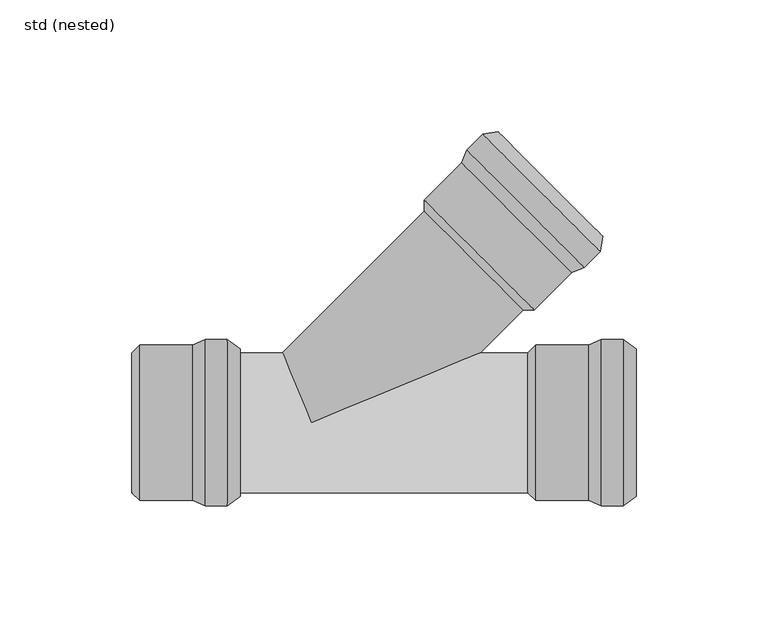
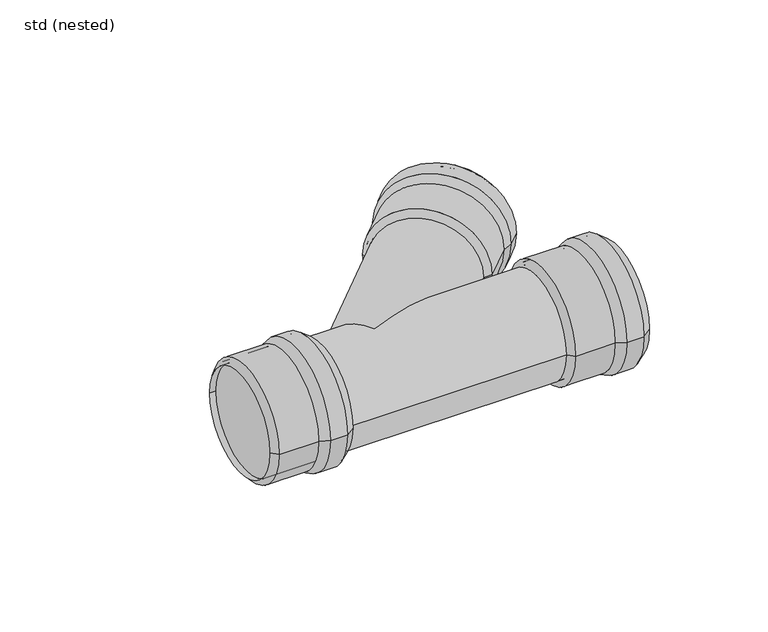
"""IFC4 building model written with IfcOpenShell, lengths in millimetres: pipe fitting geometry, ZZZ_do not use_PIF_ST_UN_GM-X single branch_ACO : std (nested)."""

from ifc_helpers import new_model, si_unit, frame, origin, place, context, project, spatial, polyline, circle_curve, ellipse_curve, source, transform, mapped, element, save
from ifc_brep_helpers import plane_surface, cylinder_surface, revolved_surface, advanced_brep


def std_nested_51db5023(model_context):
    return source(origin(), model_context, "Body", "AdvancedBrep", [
        advanced_brep(
        [(-40.2, 31.5, 0.0), (-40.2, -31.5, 0.0), (-31.8, -31.5, 0.0), (-31.8, 31.5, 0.0), (-45.0, 29.5, 0.0), (-45.0, -29.5, 0.0), (-27.0, -28.0, 0.0), (-27.0, 28.0, 0.0), (-65.0, 29.5, 0.0), (-65.0, -29.5, 0.0), (-68.0, 26.5, 0.0), (-68.0, -26.5, 0.0), (-65.0, 26.5, 0.0), (-65.0, -26.5, 0.0), (-44.7, 28.0, 0.0), (-44.7, -28.0, 0.0), (-65.0, -28.0, 0.0), (-65.0, 28.0, 0.0), (-39.9, 30.0, 0.0), (-39.9, -30.0, 0.0), (-32.2888023, 30.0, 0.0), (-32.2888023, -30.0, 0.0), (-27.8837582, 26.7879887, 0.0), (-27.8837582, -26.7879887, 0.0)],
        [
            (0, 1, circle_curve(frame((-40.2, 0.0, 0.0), z_axis=(1.0, 0.0, 0.0), x_axis=(0.0, -1.0, 0.0)), 31.5)),
            (1, 2),
            (2, 3, circle_curve(frame((-31.8, 0.0, 0.0), z_axis=(-1.0, 0.0, 0.0), x_axis=(0.0, -1.0, 0.0)), 31.5)),
            (3, 0),
            (1, 0, circle_curve(frame((-40.2, 0.0, 0.0), z_axis=(1.0, 0.0, 0.0), x_axis=(0.0, -1.0, 0.0)), 31.5)),
            (3, 2, circle_curve(frame((-31.8, 0.0, 0.0), z_axis=(-1.0, 0.0, 0.0), x_axis=(0.0, -1.0, 0.0)), 31.5)),
            (4, 5, circle_curve(frame((-45.0, 0.0, 0.0), z_axis=(1.0, 0.0, 0.0), x_axis=(0.0, -1.0, 0.0)), 29.5)),
            (5, 1),
            (0, 4),
            (5, 4, circle_curve(frame((-45.0, 0.0, 0.0), z_axis=(1.0, 0.0, 0.0), x_axis=(0.0, -1.0, 0.0)), 29.5)),
            (2, 6),
            (6, 7, circle_curve(frame((-27.0, 0.0, 0.0), z_axis=(-1.0, 0.0, 0.0), x_axis=(0.0, -1.0, 0.0)), 28.0)),
            (7, 3),
            (7, 6, circle_curve(frame((-27.0, 0.0, 0.0), z_axis=(-1.0, 0.0, 0.0), x_axis=(0.0, -1.0, 0.0)), 28.0)),
            (8, 9, circle_curve(frame((-65.0, 0.0, 0.0), z_axis=(1.0, 0.0, 0.0), x_axis=(0.0, -1.0, 0.0)), 29.5)),
            (9, 5),
            (4, 8),
            (9, 8, circle_curve(frame((-65.0, 0.0, 0.0), z_axis=(1.0, 0.0, 0.0), x_axis=(0.0, -1.0, 0.0)), 29.5)),
            (10, 11, circle_curve(frame((-68.0, 0.0, 0.0), z_axis=(1.0, 0.0, 0.0), x_axis=(0.0, -1.0, 0.0)), 26.5)),
            (11, 9),
            (8, 10),
            (11, 10, circle_curve(frame((-68.0, 0.0, 0.0), z_axis=(1.0, 0.0, 0.0), x_axis=(0.0, -1.0, 0.0)), 26.5)),
            (12, 13, circle_curve(frame((-65.0, 0.0, 0.0), z_axis=(1.0, 0.0, 0.0), x_axis=(0.0, -1.0, 0.0)), 26.5)),
            (13, 11),
            (10, 12),
            (13, 12, circle_curve(frame((-65.0, 0.0, 0.0), z_axis=(1.0, 0.0, 0.0), x_axis=(0.0, -1.0, 0.0)), 26.5)),
            (14, 15, circle_curve(frame((-44.7, 0.0, 0.0), z_axis=(1.0, 0.0, 0.0), x_axis=(0.0, -1.0, 0.0)), 28.0)),
            (15, 16),
            (16, 17, circle_curve(frame((-65.0, 0.0, 0.0), z_axis=(-1.0, 0.0, 0.0), x_axis=(0.0, -1.0, 0.0)), 28.0)),
            (17, 14),
            (15, 14, circle_curve(frame((-44.7, 0.0, 0.0), z_axis=(1.0, 0.0, 0.0), x_axis=(0.0, -1.0, 0.0)), 28.0)),
            (17, 16, circle_curve(frame((-65.0, 0.0, 0.0), z_axis=(-1.0, 0.0, 0.0), x_axis=(0.0, -1.0, 0.0)), 28.0)),
            (18, 19, circle_curve(frame((-39.9, 0.0, 0.0), z_axis=(1.0, 0.0, 0.0), x_axis=(0.0, -1.0, 0.0)), 30.0)),
            (19, 15),
            (14, 18),
            (19, 18, circle_curve(frame((-39.9, 0.0, 0.0), z_axis=(1.0, 0.0, 0.0), x_axis=(0.0, -1.0, 0.0)), 30.0)),
            (20, 21, circle_curve(frame((-32.2888023, 0.0, 0.0), z_axis=(1.0, 0.0, 0.0), x_axis=(0.0, -1.0, 0.0)), 30.0)),
            (21, 19),
            (18, 20),
            (21, 20, circle_curve(frame((-32.2888023, 0.0, 0.0), z_axis=(1.0, 0.0, 0.0), x_axis=(0.0, -1.0, 0.0)), 30.0)),
            (22, 23, circle_curve(frame((-27.8837582, 0.0, 0.0), z_axis=(1.0, 0.0, 0.0), x_axis=(0.0, -1.0, 0.0)), 26.7879887)),
            (23, 21),
            (20, 22),
            (23, 22, circle_curve(frame((-27.8837582, 0.0, 0.0), z_axis=(1.0, 0.0, 0.0), x_axis=(0.0, -1.0, 0.0)), 26.7879887)),
            (6, 23),
            (22, 7),
            (16, 13),
            (12, 17),
        ],
        [
            cylinder_surface(frame((-30.3555883, 0.0, 0.0), z_axis=(-1.0, 0.0, 0.0), x_axis=(0.0, -1.0, 0.0)), 31.5),
            revolved_surface(polyline([(-40.2, -31.5, 0.0), (-45.0, -29.5, 0.0)]), (-30.3555883, 0.0, 0.0), (-1.0, 0.0, 0.0)),
            revolved_surface(polyline([(-27.0, -28.0, 0.0), (-31.8, -31.5, 0.0)]), (-30.3555883, 0.0, 0.0), (-1.0, 0.0, 0.0)),
            cylinder_surface(frame((-30.3555883, 0.0, 0.0), z_axis=(-1.0, 0.0, 0.0), x_axis=(0.0, -1.0, 0.0)), 29.5),
            revolved_surface(polyline([(-65.0, -29.5, 0.0), (-68.0, -26.5, 0.0)]), (-30.3555883, 0.0, 0.0), (-1.0, 0.0, 0.0)),
            revolved_surface(polyline([(-68.0, -26.5, 0.0), (-65.0, -26.5, 0.0)]), (-30.3555883, 0.0, 0.0), (-1.0, 0.0, 0.0)),
            revolved_surface(polyline([(-65.0, -28.0, 0.0), (-44.7, -28.0, 0.0)]), (-30.3555883, 0.0, 0.0), (-1.0, 0.0, 0.0)),
            revolved_surface(polyline([(-44.7, -28.0, 0.0), (-39.9, -30.0, 0.0)]), (-30.3555883, 0.0, 0.0), (-1.0, 0.0, 0.0)),
            revolved_surface(polyline([(-39.9, -30.0, 0.0), (-32.2888023, -30.0, 0.0)]), (-30.3555883, 0.0, 0.0), (-1.0, 0.0, 0.0)),
            revolved_surface(polyline([(-32.2888023, -30.0, 0.0), (-27.8837582, -26.7879887, 0.0)]), (-30.3555883, 0.0, 0.0), (-1.0, 0.0, 0.0)),
            revolved_surface(polyline([(-27.8837582, -26.7879887, 0.0), (-27.0, -28.0, 0.0)]), (-30.3555883, 0.0, 0.0), (-1.0, 0.0, 0.0)),
            plane_surface(frame((-65.0, 0.0, 0.0), z_axis=(1.0, 0.0, 0.0), x_axis=(0.0, -1.0, 0.0))),
        ],
        [
            (0, [[1, 2, 3, 4]]),
            (0, [[5, -4, 6, -2]]),
            (1, [[7, 8, -1, 9]]),
            (1, [[10, -9, -5, -8]]),
            (2, [[-3, 11, 12, 13]]),
            (2, [[-6, -13, 14, -11]]),
            (3, [[15, 16, -7, 17]]),
            (3, [[18, -17, -10, -16]]),
            (4, [[19, 20, -15, 21]]),
            (4, [[22, -21, -18, -20]]),
            (5, [[23, 24, -19, 25]]),
            (5, [[26, -25, -22, -24]]),
            (6, [[27, 28, 29, 30]]),
            (6, [[31, -30, 32, -28]]),
            (7, [[33, 34, -27, 35]]),
            (7, [[36, -35, -31, -34]]),
            (8, [[37, 38, -33, 39]]),
            (8, [[40, -39, -36, -38]]),
            (9, [[41, 42, -37, 43]]),
            (9, [[44, -43, -40, -42]]),
            (10, [[-12, 45, -41, 46]]),
            (10, [[-14, -46, -44, -45]]),
            (11, [[-29, 47, -23, 48]]),
            (11, [[-32, -48, -26, -47]]),
        ],
    ),
        advanced_brep(
        [(109.8, -31.5, 0.0), (109.8, 31.5, 0.0), (118.2, 31.5, 0.0), (118.2, -31.5, 0.0), (105.0, -29.5, 0.0), (105.0, 29.5, 0.0), (123.0, 28.0, 0.0), (123.0, -28.0, 0.0), (85.0, -29.5, 0.0), (85.0, 29.5, 0.0), (82.0, -26.5, 0.0), (82.0, 26.5, 0.0), (85.0, -26.5, 0.0), (85.0, 26.5, 0.0), (105.3, -28.0, 0.0), (105.3, 28.0, 0.0), (85.0, 28.0, 0.0), (85.0, -28.0, 0.0), (110.1, -30.0, 0.0), (110.1, 30.0, 0.0), (117.7111977, -30.0, 0.0), (117.7111977, 30.0, 0.0), (122.1162418, -26.7879887, 0.0), (122.1162418, 26.7879887, 0.0)],
        [
            (0, 1, circle_curve(frame((109.8, 0.0, 0.0), z_axis=(1.0, 0.0, 0.0), x_axis=(0.0, 1.0, 0.0)), 31.5)),
            (1, 2),
            (2, 3, circle_curve(frame((118.2, 0.0, 0.0), z_axis=(-1.0, 0.0, 0.0), x_axis=(0.0, 1.0, 0.0)), 31.5)),
            (3, 0),
            (1, 0, circle_curve(frame((109.8, 0.0, 0.0), z_axis=(1.0, 0.0, 0.0), x_axis=(0.0, 1.0, 0.0)), 31.5)),
            (3, 2, circle_curve(frame((118.2, 0.0, 0.0), z_axis=(-1.0, 0.0, 0.0), x_axis=(0.0, 1.0, 0.0)), 31.5)),
            (4, 5, circle_curve(frame((105.0, 0.0, 0.0), z_axis=(1.0, 0.0, 0.0), x_axis=(0.0, 1.0, 0.0)), 29.5)),
            (5, 1),
            (0, 4),
            (5, 4, circle_curve(frame((105.0, 0.0, 0.0), z_axis=(1.0, 0.0, 0.0), x_axis=(0.0, 1.0, 0.0)), 29.5)),
            (2, 6),
            (6, 7, circle_curve(frame((123.0, 0.0, 0.0), z_axis=(-1.0, 0.0, 0.0), x_axis=(0.0, 1.0, 0.0)), 28.0)),
            (7, 3),
            (7, 6, circle_curve(frame((123.0, 0.0, 0.0), z_axis=(-1.0, 0.0, 0.0), x_axis=(0.0, 1.0, 0.0)), 28.0)),
            (8, 9, circle_curve(frame((85.0, 0.0, 0.0), z_axis=(1.0, 0.0, 0.0), x_axis=(0.0, 1.0, 0.0)), 29.5)),
            (9, 5),
            (4, 8),
            (9, 8, circle_curve(frame((85.0, 0.0, 0.0), z_axis=(1.0, 0.0, 0.0), x_axis=(0.0, 1.0, 0.0)), 29.5)),
            (10, 11, circle_curve(frame((82.0, 0.0, 0.0), z_axis=(1.0, 0.0, 0.0), x_axis=(0.0, 1.0, 0.0)), 26.5)),
            (11, 9),
            (8, 10),
            (11, 10, circle_curve(frame((82.0, 0.0, 0.0), z_axis=(1.0, 0.0, 0.0), x_axis=(0.0, 1.0, 0.0)), 26.5)),
            (12, 13, circle_curve(frame((85.0, 0.0, 0.0), z_axis=(1.0, 0.0, 0.0), x_axis=(0.0, 1.0, 0.0)), 26.5)),
            (13, 11),
            (10, 12),
            (13, 12, circle_curve(frame((85.0, 0.0, 0.0), z_axis=(1.0, 0.0, 0.0), x_axis=(0.0, 1.0, 0.0)), 26.5)),
            (14, 15, circle_curve(frame((105.3, 0.0, 0.0), z_axis=(1.0, 0.0, 0.0), x_axis=(0.0, 1.0, 0.0)), 28.0)),
            (15, 16),
            (16, 17, circle_curve(frame((85.0, 0.0, 0.0), z_axis=(-1.0, 0.0, 0.0), x_axis=(0.0, 1.0, 0.0)), 28.0)),
            (17, 14),
            (15, 14, circle_curve(frame((105.3, 0.0, 0.0), z_axis=(1.0, 0.0, 0.0), x_axis=(0.0, 1.0, 0.0)), 28.0)),
            (17, 16, circle_curve(frame((85.0, 0.0, 0.0), z_axis=(-1.0, 0.0, 0.0), x_axis=(0.0, 1.0, 0.0)), 28.0)),
            (18, 19, circle_curve(frame((110.1, 0.0, 0.0), z_axis=(1.0, 0.0, 0.0), x_axis=(0.0, 1.0, 0.0)), 30.0)),
            (19, 15),
            (14, 18),
            (19, 18, circle_curve(frame((110.1, 0.0, 0.0), z_axis=(1.0, 0.0, 0.0), x_axis=(0.0, 1.0, 0.0)), 30.0)),
            (20, 21, circle_curve(frame((117.7111977, 0.0, 0.0), z_axis=(1.0, 0.0, 0.0), x_axis=(0.0, 1.0, 0.0)), 30.0)),
            (21, 19),
            (18, 20),
            (21, 20, circle_curve(frame((117.7111977, 0.0, 0.0), z_axis=(1.0, 0.0, 0.0), x_axis=(0.0, 1.0, 0.0)), 30.0)),
            (22, 23, circle_curve(frame((122.1162418, 0.0, 0.0), z_axis=(1.0, 0.0, 0.0), x_axis=(0.0, 1.0, 0.0)), 26.7879887)),
            (23, 21),
            (20, 22),
            (23, 22, circle_curve(frame((122.1162418, 0.0, 0.0), z_axis=(1.0, 0.0, 0.0), x_axis=(0.0, 1.0, 0.0)), 26.7879887)),
            (6, 23),
            (22, 7),
            (16, 13),
            (12, 17),
        ],
        [
            cylinder_surface(frame((119.6444117, 0.0, 0.0), z_axis=(-1.0, 0.0, 0.0), x_axis=(0.0, 1.0, 0.0)), 31.5),
            revolved_surface(polyline([(109.8, 31.5, 0.0), (105.0, 29.5, 0.0)]), (119.6444117, 0.0, 0.0), (-1.0, 0.0, 0.0)),
            revolved_surface(polyline([(123.0, 28.0, 0.0), (118.2, 31.5, 0.0)]), (119.6444117, 0.0, 0.0), (-1.0, 0.0, 0.0)),
            cylinder_surface(frame((119.6444117, 0.0, 0.0), z_axis=(-1.0, 0.0, 0.0), x_axis=(0.0, 1.0, 0.0)), 29.5),
            revolved_surface(polyline([(85.0, 29.5, 0.0), (82.0, 26.5, 0.0)]), (119.6444117, 0.0, 0.0), (-1.0, 0.0, 0.0)),
            revolved_surface(polyline([(82.0, 26.5, 0.0), (85.0, 26.5, 0.0)]), (119.6444117, 0.0, 0.0), (-1.0, 0.0, 0.0)),
            revolved_surface(polyline([(85.0, 28.0, 0.0), (105.3, 28.0, 0.0)]), (119.6444117, 0.0, 0.0), (-1.0, 0.0, 0.0)),
            revolved_surface(polyline([(105.3, 28.0, 0.0), (110.1, 30.0, 0.0)]), (119.6444117, 0.0, 0.0), (-1.0, 0.0, 0.0)),
            revolved_surface(polyline([(110.1, 30.0, 0.0), (117.7111977, 30.0, 0.0)]), (119.6444117, 0.0, 0.0), (-1.0, 0.0, 0.0)),
            revolved_surface(polyline([(117.7111977, 30.0, 0.0), (122.1162418, 26.7879887, 0.0)]), (119.6444117, 0.0, 0.0), (-1.0, 0.0, 0.0)),
            revolved_surface(polyline([(122.1162418, 26.7879887, 0.0), (123.0, 28.0, 0.0)]), (119.6444117, 0.0, 0.0), (-1.0, 0.0, 0.0)),
            plane_surface(frame((85.0, 0.0, 0.0), z_axis=(1.0, 0.0, 0.0), x_axis=(0.0, 1.0, 0.0))),
        ],
        [
            (0, [[1, 2, 3, 4]]),
            (0, [[5, -4, 6, -2]]),
            (1, [[7, 8, -1, 9]]),
            (1, [[10, -9, -5, -8]]),
            (2, [[-3, 11, 12, 13]]),
            (2, [[-6, -13, 14, -11]]),
            (3, [[15, 16, -7, 17]]),
            (3, [[18, -17, -10, -16]]),
            (4, [[19, 20, -15, 21]]),
            (4, [[22, -21, -18, -20]]),
            (5, [[23, 24, -19, 25]]),
            (5, [[26, -25, -22, -24]]),
            (6, [[27, 28, 29, 30]]),
            (6, [[31, -30, 32, -28]]),
            (7, [[33, 34, -27, 35]]),
            (7, [[36, -35, -31, -34]]),
            (8, [[37, 38, -33, 39]]),
            (8, [[40, -39, -36, -38]]),
            (9, [[41, 42, -37, 43]]),
            (9, [[44, -43, -40, -42]]),
            (10, [[-12, 45, -41, 46]]),
            (10, [[-14, -46, -44, -45]]),
            (11, [[-29, 47, -23, 48]]),
            (11, [[-32, -48, -26, -47]]),
        ],
    ),
        advanced_brep(
        [(103.4552102, 58.892355, 0.0), (58.9116342, 103.4442331, 0.0), (64.8518846, 109.3833765, 0.0), (109.3954606, 64.8314985, 0.0), (98.6466996, 56.9129041, 0.0), (56.9312872, 98.6360915, 0.0), (70.7209565, 110.3020685, 0.0), (110.3152463, 70.7003991, 0.0), (84.5032463, 42.7720863, 0.0), (42.7878338, 84.4952737, 0.0), (80.2606056, 42.7724816, 0.0), (42.7874385, 80.252633, 0.0), (82.3821236, 44.8936043, 0.0), (44.9089565, 82.3737557, 0.0), (97.7982901, 58.1857754, 0.0), (58.2040003, 97.7874447, 0.0), (43.8483952, 83.4345147, 0.0), (83.4426849, 43.8328453, 0.0), (102.6068007, 60.1652263, 0.0), (60.1843473, 102.5955863, 0.0), (107.9892317, 65.5466543, 0.0), (65.5667783, 107.9770143, 0.0), (108.8333351, 70.9326471, 0.0), (70.9529284, 108.820114, 0.0)],
        [
            (0, 1, circle_curve(frame((81.1834222, 81.168294, 0.0), z_axis=(0.7071726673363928, 0.7070408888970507, 0.0), x_axis=(-0.7070408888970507, 0.7071726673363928, 0.0)), 31.5)),
            (1, 2),
            (2, 3, circle_curve(frame((87.1236726, 87.1074375, 0.0), z_axis=(-0.7071726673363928, -0.7070408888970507, 0.0), x_axis=(-0.7070408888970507, 0.7071726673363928, 0.0)), 31.5)),
            (3, 0),
            (1, 0, circle_curve(frame((81.1834222, 81.168294, 0.0), z_axis=(0.7071726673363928, 0.7070408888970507, 0.0), x_axis=(-0.7070408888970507, 0.7071726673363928, 0.0)), 31.5)),
            (3, 2, circle_curve(frame((87.1236726, 87.1074375, 0.0), z_axis=(-0.7071726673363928, -0.7070408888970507, 0.0), x_axis=(-0.7070408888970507, 0.7071726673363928, 0.0)), 31.5)),
            (4, 5, circle_curve(frame((77.7889934, 77.7744978, 0.0), z_axis=(0.7071726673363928, 0.7070408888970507, 0.0), x_axis=(-0.7070408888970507, 0.7071726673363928, 0.0)), 29.5)),
            (5, 1),
            (0, 4),
            (5, 4, circle_curve(frame((77.7889934, 77.7744978, 0.0), z_axis=(0.7071726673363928, 0.7070408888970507, 0.0), x_axis=(-0.7070408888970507, 0.7071726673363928, 0.0)), 29.5)),
            (2, 6),
            (6, 7, circle_curve(frame((90.5181014, 90.5012338, 0.0), z_axis=(-0.7071726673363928, -0.7070408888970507, 0.0), x_axis=(-0.7070408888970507, 0.7071726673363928, 0.0)), 28.0)),
            (7, 3),
            (7, 6, circle_curve(frame((90.5181014, 90.5012338, 0.0), z_axis=(-0.7071726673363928, -0.7070408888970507, 0.0), x_axis=(-0.7070408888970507, 0.7071726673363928, 0.0)), 28.0)),
            (8, 9, circle_curve(frame((63.6455401, 63.63368, 0.0), z_axis=(0.7071726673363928, 0.7070408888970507, 0.0), x_axis=(-0.7070408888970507, 0.7071726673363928, 0.0)), 29.5)),
            (9, 5),
            (4, 8),
            (9, 8, circle_curve(frame((63.6455401, 63.63368, 0.0), z_axis=(0.7071726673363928, 0.7070408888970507, 0.0), x_axis=(-0.7070408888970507, 0.7071726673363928, 0.0)), 29.5)),
            (10, 11, circle_curve(frame((61.5240221, 61.5125573, 0.0), z_axis=(0.7071726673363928, 0.7070408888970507, 0.0), x_axis=(-0.7070408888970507, 0.7071726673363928, 0.0)), 26.5)),
            (11, 9),
            (8, 10),
            (11, 10, circle_curve(frame((61.5240221, 61.5125573, 0.0), z_axis=(0.7071726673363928, 0.7070408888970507, 0.0), x_axis=(-0.7070408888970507, 0.7071726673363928, 0.0)), 26.5)),
            (12, 13, circle_curve(frame((63.6455401, 63.63368, 0.0), z_axis=(0.7071726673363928, 0.7070408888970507, 0.0), x_axis=(-0.7070408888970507, 0.7071726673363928, 0.0)), 26.5)),
            (13, 11),
            (10, 12),
            (13, 12, circle_curve(frame((63.6455401, 63.63368, 0.0), z_axis=(0.7071726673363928, 0.7070408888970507, 0.0), x_axis=(-0.7070408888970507, 0.7071726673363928, 0.0)), 26.5)),
            (14, 15, circle_curve(frame((78.0011452, 77.98661, 0.0), z_axis=(0.7071726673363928, 0.7070408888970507, 0.0), x_axis=(-0.7070408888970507, 0.7071726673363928, 0.0)), 28.0)),
            (15, 16),
            (16, 17, circle_curve(frame((63.6455401, 63.63368, 0.0), z_axis=(-0.7071726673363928, -0.7070408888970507, 0.0), x_axis=(-0.7070408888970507, 0.7071726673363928, 0.0)), 28.0)),
            (17, 14),
            (15, 14, circle_curve(frame((78.0011452, 77.98661, 0.0), z_axis=(0.7071726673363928, 0.7070408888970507, 0.0), x_axis=(-0.7070408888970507, 0.7071726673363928, 0.0)), 28.0)),
            (17, 16, circle_curve(frame((63.6455401, 63.63368, 0.0), z_axis=(-0.7071726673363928, -0.7070408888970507, 0.0), x_axis=(-0.7070408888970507, 0.7071726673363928, 0.0)), 28.0)),
            (18, 19, circle_curve(frame((81.395574, 81.3804063, 0.0), z_axis=(0.7071726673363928, 0.7070408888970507, 0.0), x_axis=(-0.7070408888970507, 0.7071726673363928, 0.0)), 30.0)),
            (19, 15),
            (14, 18),
            (19, 18, circle_curve(frame((81.395574, 81.3804063, 0.0), z_axis=(0.7071726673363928, 0.7070408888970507, 0.0), x_axis=(-0.7070408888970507, 0.7071726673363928, 0.0)), 30.0)),
            (20, 21, circle_curve(frame((86.778005, 86.7618343, 0.0), z_axis=(0.7071726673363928, 0.7070408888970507, 0.0), x_axis=(-0.7070408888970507, 0.7071726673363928, 0.0)), 30.0)),
            (21, 19),
            (18, 20),
            (21, 20, circle_curve(frame((86.778005, 86.7618343, 0.0), z_axis=(0.7071726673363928, 0.7070408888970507, 0.0), x_axis=(-0.7070408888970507, 0.7071726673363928, 0.0)), 30.0)),
            (22, 23, circle_curve(frame((89.8931317, 89.8763806, 0.0), z_axis=(0.7071726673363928, 0.7070408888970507, 0.0), x_axis=(-0.7070408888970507, 0.7071726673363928, 0.0)), 26.7879887)),
            (23, 21),
            (20, 22),
            (23, 22, circle_curve(frame((89.8931317, 89.8763806, 0.0), z_axis=(0.7071726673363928, 0.7070408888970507, 0.0), x_axis=(-0.7070408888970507, 0.7071726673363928, 0.0)), 26.7879887)),
            (6, 23),
            (22, 7),
            (16, 13),
            (12, 17),
        ],
        [
            cylinder_surface(frame((88.1451211, 88.1286956, 0.0), z_axis=(-0.7071726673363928, -0.7070408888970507, 0.0), x_axis=(-0.7070408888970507, 0.7071726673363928, 0.0)), 31.5),
            revolved_surface(polyline([(58.9116342, 103.4442331, 0.0), (56.9312872, 98.6360915, 0.0)]), (88.1451211, 88.1286956, 0.0), (-0.7071726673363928, -0.7070408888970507, 0.0)),
            revolved_surface(polyline([(70.7209565, 110.3020685, 0.0), (64.8518846, 109.3833765, 0.0)]), (88.1451211, 88.1286956, 0.0), (-0.7071726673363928, -0.7070408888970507, 0.0)),
            cylinder_surface(frame((88.1451211, 88.1286956, 0.0), z_axis=(-0.7071726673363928, -0.7070408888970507, 0.0), x_axis=(-0.7070408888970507, 0.7071726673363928, 0.0)), 29.5),
            revolved_surface(polyline([(42.7878338, 84.4952737, 0.0), (42.7874385, 80.252633, 0.0)]), (88.1451211, 88.1286956, 0.0), (-0.7071726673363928, -0.7070408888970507, 0.0)),
            revolved_surface(polyline([(42.78743849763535, 80.25263295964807, 0.0), (44.90895655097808, 82.37375567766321, 0.0)]), (88.1451211, 88.1286956, 0.0), (-0.7071726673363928, -0.7070408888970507, 0.0)),
            revolved_surface(polyline([(43.848395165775, 83.43451462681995, 0.0), (58.20400036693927, 97.78744472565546, 0.0)]), (88.1451211, 88.1286956, 0.0), (-0.7071726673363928, -0.7070408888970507, 0.0)),
            revolved_surface(polyline([(58.2040003, 97.7874447, 0.0), (60.1843473, 102.5955863, 0.0)]), (88.1451211, 88.1286956, 0.0), (-0.7071726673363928, -0.7070408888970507, 0.0)),
            revolved_surface(polyline([(60.184347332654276, 102.59558626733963, 0.0), (65.56677838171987, 107.97701432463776, 0.0)]), (88.1451211, 88.1286956, 0.0), (-0.7071726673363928, -0.7070408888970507, 0.0)),
            revolved_surface(polyline([(65.5667783, 107.9770143, 0.0), (70.9529284, 108.820114, 0.0)]), (88.1451211, 88.1286956, 0.0), (-0.7071726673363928, -0.7070408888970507, 0.0)),
            revolved_surface(polyline([(70.9529284, 108.820114, 0.0), (70.7209565, 110.3020685, 0.0)]), (88.1451211, 88.1286956, 0.0), (-0.7071726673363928, -0.7070408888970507, 0.0)),
            plane_surface(frame((63.6455401, 63.63368, 0.0), z_axis=(0.7071726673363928, 0.7070408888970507, 0.0), x_axis=(-0.7070408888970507, 0.7071726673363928, 0.0))),
        ],
        [
            (0, [[1, 2, 3, 4]]),
            (0, [[5, -4, 6, -2]]),
            (1, [[7, 8, -1, 9]]),
            (1, [[10, -9, -5, -8]]),
            (2, [[-3, 11, 12, 13]]),
            (2, [[-6, -13, 14, -11]]),
            (3, [[15, 16, -7, 17]]),
            (3, [[18, -17, -10, -16]]),
            (4, [[19, 20, -15, 21]]),
            (4, [[22, -21, -18, -20]]),
            (5, [[23, 24, -19, 25]]),
            (5, [[26, -25, -22, -24]]),
            (6, [[27, 28, 29, 30]]),
            (6, [[31, -30, 32, -28]]),
            (7, [[33, 34, -27, 35]]),
            (7, [[36, -35, -31, -34]]),
            (8, [[37, 38, -33, 39]]),
            (8, [[40, -39, -36, -38]]),
            (9, [[41, 42, -37, 43]]),
            (9, [[44, -43, -40, -42]]),
            (10, [[-12, 45, -41, 46]]),
            (10, [[-14, -46, -44, -45]]),
            (11, [[-29, 47, -23, 48]]),
            (11, [[-32, -48, -26, -47]]),
        ],
    ),
        advanced_brep(
        [(85.0, -26.5, 0.0), (85.0, 26.5, 0.0), (-65.0, -26.5, 0.0), (-65.0, 26.5, 0.0), (-10.9752129, 26.5, 0.0), (0.0, 0.0, -26.5), (63.9850911, 26.5, 0.0), (0.0, 0.0, 26.5), (82.3821236, 44.8936043, 0.0), (44.9089565, 82.3737557, 0.0)],
        [
            (0, 1, circle_curve(frame((85.0, 0.0, 0.0), z_axis=(1.0, 0.0, 0.0), x_axis=(0.0, 1.0, 0.0)), 26.5)),
            (1, 0, circle_curve(frame((85.0, 0.0, 0.0), z_axis=(1.0, 0.0, 0.0), x_axis=(0.0, 1.0, 0.0)), 26.5)),
            (2, 3, circle_curve(frame((-65.0, 0.0, 0.0), z_axis=(-1.0, 0.0, 0.0), x_axis=(0.0, 1.0, 0.0)), 26.5)),
            (3, 2, circle_curve(frame((-65.0, 0.0, 0.0), z_axis=(-1.0, 0.0, 0.0), x_axis=(0.0, 1.0, 0.0)), 26.5)),
            (0, 2),
            (3, 4),
            (4, 5, ellipse_curve(frame((0.0, 0.0, 0.0), z_axis=(-0.9238973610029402, -0.382640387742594, 0.0), x_axis=(0.38264038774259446, -0.9238973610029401, 0.0)), 28.6828398, 26.5)),
            (5, 6, ellipse_curve(frame((0.0, 0.0, 0.0), z_axis=(0.38264038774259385, -0.9238973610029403, 0.0), x_axis=(0.9238973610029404, 0.3826403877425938, 0.0)), 69.2556271, 26.5)),
            (6, 1),
            (6, 7, ellipse_curve(frame((0.0, 0.0, 0.0), z_axis=(0.38264038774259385, -0.9238973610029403, 0.0), x_axis=(0.9238973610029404, 0.3826403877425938, 0.0)), 69.2556271, 26.5)),
            (7, 4, ellipse_curve(frame((0.0, 0.0, 0.0), z_axis=(-0.9238973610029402, -0.382640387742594, 0.0), x_axis=(0.38264038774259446, -0.9238973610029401, 0.0)), 28.6828398, 26.5)),
            (8, 9, circle_curve(frame((63.6455401, 63.63368, 0.0), z_axis=(0.7071726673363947, 0.7070408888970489, 0.0), x_axis=(-0.7070408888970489, 0.7071726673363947, 0.0)), 26.5)),
            (9, 8, circle_curve(frame((63.6455401, 63.63368, 0.0), z_axis=(0.7071726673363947, 0.7070408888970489, 0.0), x_axis=(-0.7070408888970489, 0.7071726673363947, 0.0)), 26.5)),
            (9, 4),
            (6, 8),
        ],
        [
            plane_surface(frame((85.0, 26.5, 0.0), z_axis=(1.0, 0.0, 0.0), x_axis=(0.0, 0.0, 1.0))),
            plane_surface(frame((-65.0, 26.5, 0.0), z_axis=(-1.0, 0.0, 0.0), x_axis=(0.0, 0.0, -1.0))),
            cylinder_surface(frame((-65.0, 0.0, 0.0), z_axis=(1.0, 0.0, 0.0), x_axis=(0.0, 1.0, 0.0)), 26.5),
            plane_surface(frame((63.6455401, 63.63368, 0.0), z_axis=(0.7071726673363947, 0.7070408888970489, 0.0), x_axis=(0.0, 0.0, 1.0))),
            cylinder_surface(frame((0.0, 0.0, 0.0), z_axis=(-0.7071726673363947, -0.7070408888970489, 0.0), x_axis=(-0.7070408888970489, 0.7071726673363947, 0.0)), 26.5),
        ],
        [
            (0, [[1, 2]]),
            (1, [[3, 4]]),
            (2, [[-1, 5, -4, 6, 7, 8, 9]]),
            (2, [[-2, -9, 10, 11, -6, -3, -5]]),
            (3, [[12, 13]]),
            (4, [[-13, 14, -11, -10, 15]]),
            (4, [[-12, -15, -8, -7, -14]]),
        ],
    ),
    ])


if __name__ == "__main__":
    model = new_model("IFC4")
    model_context = context("Model", 3, world=origin())
    ifc_project = project(units=[si_unit("LENGTHUNIT", "METRE", prefix="MILLI")], contexts=[model_context])
    site = spatial("IfcSite", under=ifc_project)
    building = spatial("IfcBuilding", under=site)
    placement = place(None, origin())
    std_nested_shape = std_nested_51db5023(model_context)
    element("IfcPipeFitting", 1, ObjectType="ZZZ_do not use_PIF_ST_UN_GM-X single branch_ACO : std (nested)", at=placement, inside=building, context=model_context, shape_type="MappedRepresentation", body=[
        mapped(std_nested_shape, transform((0.0, 0.0, 0.0), x_axis=(1.0, 0.0, 0.0), y_axis=(0.0, 1.0, 0.0), z_axis=(0.0, 0.0, 1.0))),
    ])
    save(model, "model.ifc")
